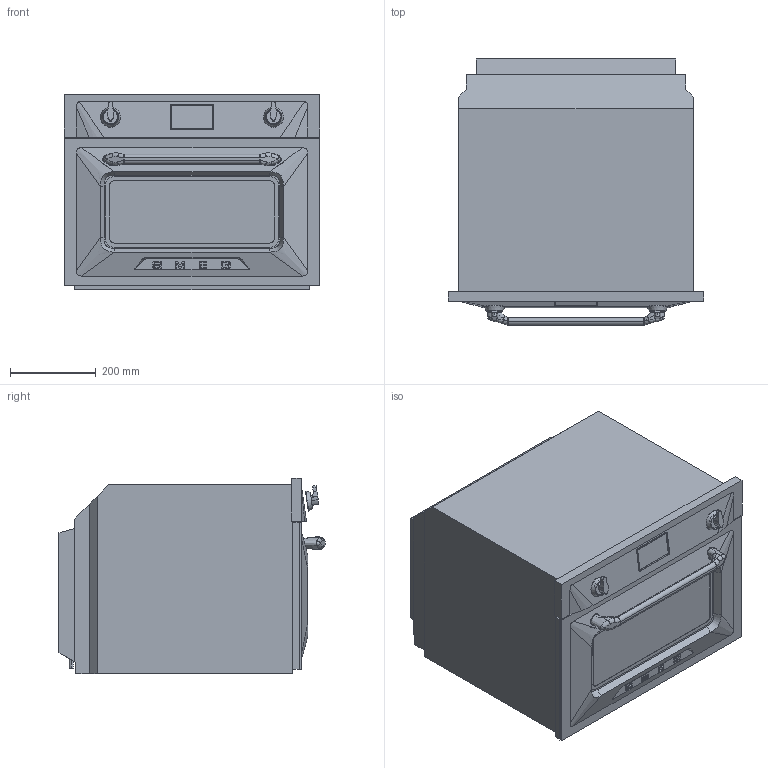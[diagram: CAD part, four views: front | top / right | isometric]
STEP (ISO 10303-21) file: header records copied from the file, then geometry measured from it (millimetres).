
FILE_DESCRIPTION(/* description */ ('Unknown'),/* implementation_level */ '2;1');
FILE_NAME(/* name */ 'SO4902M1N',/* time_stamp */ '2025-07-15T14:53:41+02:00',/* author */ ('Unknown'),/* organization */ ('Unknown'),/* preprocessor_version */ 'ST-DEVELOPER v16.7',/* originating_system */ 'DEX',/* authorisation */ $);
FILE_SCHEMA (('AUTOMOTIVE_DESIGN {1 0 10303 214 3 1 1}'));
Length unit declared in the file: millimetre
Products named in the file (1): SO4902M1N
Bounding box: 597 x 622.11 x 456.56 mm (x, y, z)
Volume: 132945778 mm3; surface area: 2627654.6 mm2
Topology: 17 solids, 17 shells, 367 faces, 949 edges, 625 vertices
Faces by surface type: plane 174, bspline 100, cylinder 88, cone 5
Full cylindrical faces by diameter (mm): 36 x2, 36.9 x2, 46.8 x2
Entity records: 18007 total; most frequent: CARTESIAN_POINT 9244, ORIENTED_EDGE 1866, DIRECTION 1371, EDGE_CURVE 933, VERTEX_POINT 619, LINE 499, VECTOR 499, AXIS2_PLACEMENT_3D 436
